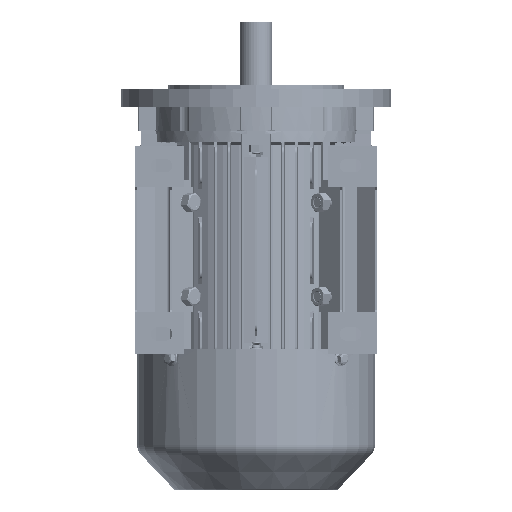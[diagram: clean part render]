
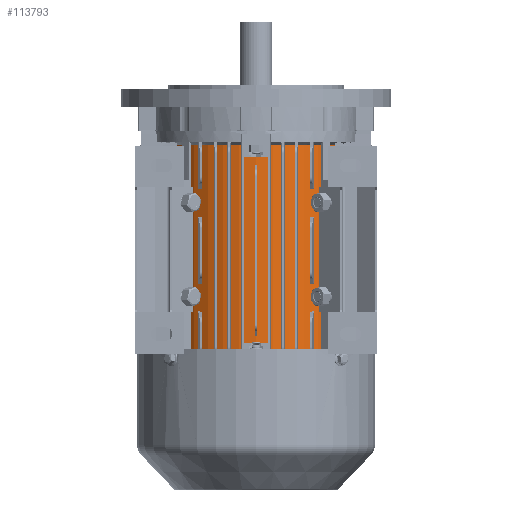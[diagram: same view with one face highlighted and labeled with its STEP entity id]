
A CAD part, front view. The second image highlights one B-rep face of the part: STEP entity #113793.
In plain terms, the highlighted cylindrical face has radius 71.192 mm (diameter 142.384 mm), a partial arc.
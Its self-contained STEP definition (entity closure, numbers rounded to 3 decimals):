
#140 = CIRCLE ( 'NONE', #100167, 71.192 ) ;
#1989 = DIRECTION ( 'NONE',  ( 1., 0., 0. ) ) ;
#7899 = EDGE_CURVE ( 'NONE', #104498, #33368, #56044, .T. ) ;
#9454 = DIRECTION ( 'NONE',  ( 0., 0., 1. ) ) ;
#11894 = VECTOR ( 'NONE', #9454, 1000. ) ;
#12921 = CARTESIAN_POINT ( 'NONE',  ( 71.192, 0., -169.023 ) ) ;
#14698 = CARTESIAN_POINT ( 'NONE',  ( 71.192, 0., -13.023 ) ) ;
#19244 = CARTESIAN_POINT ( 'NONE',  ( -71.192, 0., 0. ) ) ;
#20643 = FACE_OUTER_BOUND ( 'NONE', #43990, .T. ) ;
#21663 = CIRCLE ( 'NONE', #123694, 71.192 ) ;
#31858 = ORIENTED_EDGE ( 'NONE', *, *, #7899, .F. ) ;
#32972 = VECTOR ( 'NONE', #98757, 1000. ) ;
#33287 = DIRECTION ( 'NONE',  ( 0., 0., 1. ) ) ;
#33368 = VERTEX_POINT ( 'NONE', #60880 ) ;
#38078 = DIRECTION ( 'NONE',  ( 0., 0., 1. ) ) ;
#40683 = VERTEX_POINT ( 'NONE', #12921 ) ;
#43990 = EDGE_LOOP ( 'NONE', ( #31858, #79061, #108040, #60830 ) ) ;
#56044 = LINE ( 'NONE', #19244, #32972 ) ;
#58644 = DIRECTION ( 'NONE',  ( 0., 0., 1. ) ) ;
#60830 = ORIENTED_EDGE ( 'NONE', *, *, #83791, .F. ) ;
#60880 = CARTESIAN_POINT ( 'NONE',  ( -71.192, 0., -13.023 ) ) ;
#70687 = EDGE_CURVE ( 'NONE', #104498, #40683, #21663, .T. ) ;
#77538 = CYLINDRICAL_SURFACE ( 'NONE', #78328, 71.192 ) ;
#78328 = AXIS2_PLACEMENT_3D ( 'NONE', #138219, #58644, #1989 ) ;
#79061 = ORIENTED_EDGE ( 'NONE', *, *, #70687, .T. ) ;
#83791 = EDGE_CURVE ( 'NONE', #33368, #121502, #140, .T. ) ;
#98757 = DIRECTION ( 'NONE',  ( 0., 0., 1. ) ) ;
#99044 = LINE ( 'NONE', #145670, #11894 ) ;
#100167 = AXIS2_PLACEMENT_3D ( 'NONE', #101363, #33287, #112842 ) ;
#101363 = CARTESIAN_POINT ( 'NONE',  ( 0., 0., -13.023 ) ) ;
#104498 = VERTEX_POINT ( 'NONE', #137238 ) ;
#106231 = CARTESIAN_POINT ( 'NONE',  ( 0., 0., -169.023 ) ) ;
#108040 = ORIENTED_EDGE ( 'NONE', *, *, #146788, .T. ) ;
#112842 = DIRECTION ( 'NONE',  ( 1., 0., 0. ) ) ;
#113793 = ADVANCED_FACE ( 'NONE', ( #20643 ), #77538, .T. ) ;
#117665 = DIRECTION ( 'NONE',  ( 1., 0., 0. ) ) ;
#121502 = VERTEX_POINT ( 'NONE', #14698 ) ;
#123694 = AXIS2_PLACEMENT_3D ( 'NONE', #106231, #38078, #117665 ) ;
#137238 = CARTESIAN_POINT ( 'NONE',  ( -71.192, 0., -169.023 ) ) ;
#138219 = CARTESIAN_POINT ( 'NONE',  ( 0., 0., 0. ) ) ;
#145670 = CARTESIAN_POINT ( 'NONE',  ( 71.192, 0., 0. ) ) ;
#146788 = EDGE_CURVE ( 'NONE', #40683, #121502, #99044, .T. ) ;
